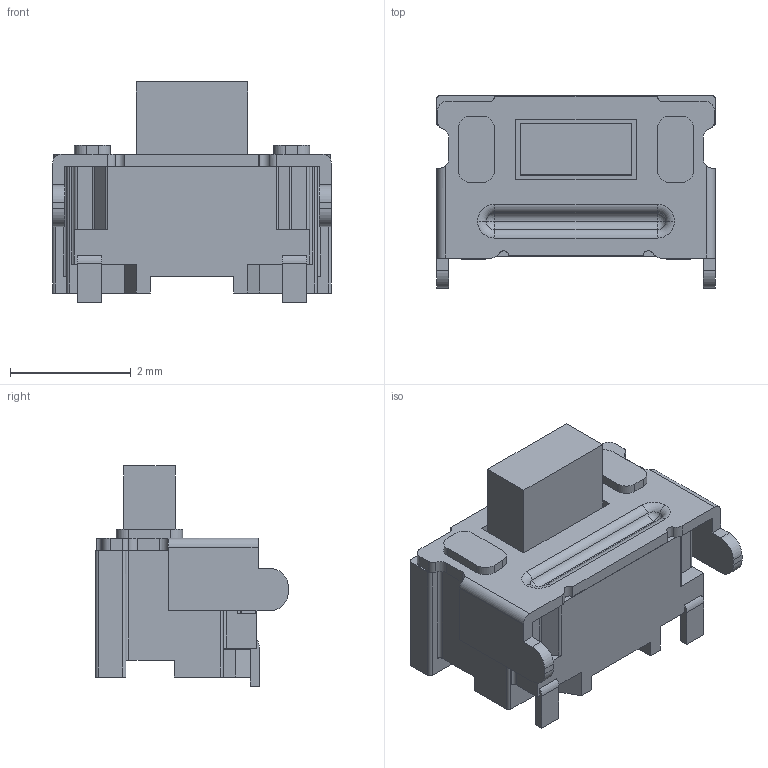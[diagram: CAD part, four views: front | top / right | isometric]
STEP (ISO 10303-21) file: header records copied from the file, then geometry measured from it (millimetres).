
FILE_DESCRIPTION (( 'STEP AP203' ), '1' );
FILE_NAME ('GT-TC022X-HXXX-LX.STEP', '2025-06-14T07:35:29', ( '' ), ( '' ), 'SwSTEP 2.0', 'SolidWorks 2023', '' );
FILE_SCHEMA (( 'CONFIG_CONTROL_DESIGN' ));
Length unit declared in the file: millimetre
Products named in the file (1): GT-TC022X-HXXX-LX
Bounding box: 4.62 x 3.19 x 3.65 mm (x, y, z)
Volume: 19.5 mm3; surface area: 109.4 mm2
Topology: 1 solids, 3 shells, 460 faces, 1261 edges, 834 vertices
Faces by surface type: plane 326, bspline 74, cylinder 52, sphere 4, torus 4
Entity records: 18074 total; most frequent: CARTESIAN_POINT 6728, ORIENTED_EDGE 2514, DIRECTION 2003, EDGE_CURVE 1257, VECTOR 985, LINE 985, VERTEX_POINT 834, AXIS2_PLACEMENT_3D 509
